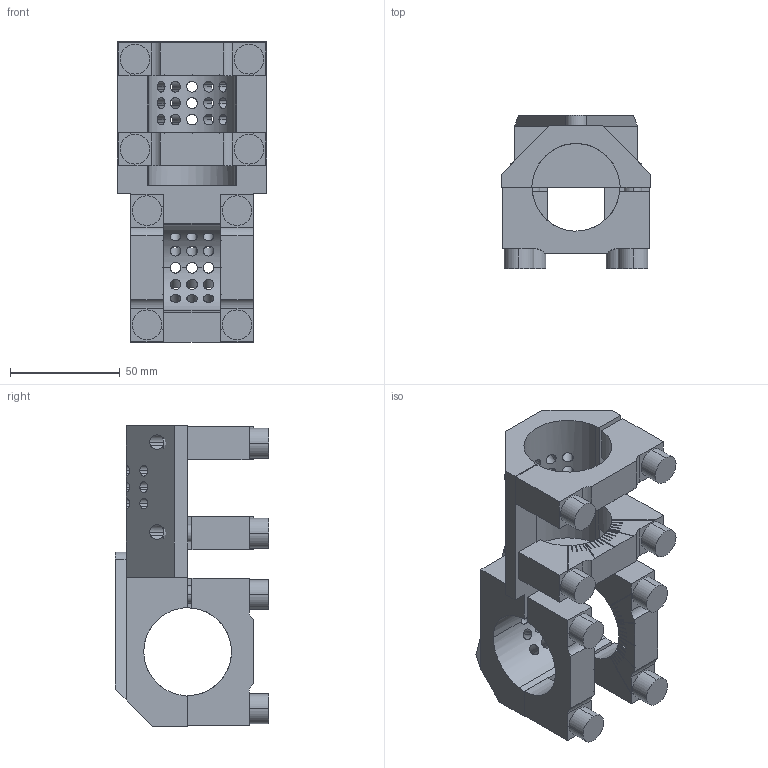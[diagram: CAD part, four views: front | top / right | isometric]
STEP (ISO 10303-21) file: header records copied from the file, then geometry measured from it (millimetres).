
FILE_DESCRIPTION(('STEP AP214'),'1');
FILE_NAME('EGT140_1720243_RD40_40_L90.CATPart.stp','2015-09-14T13:10:04',('3D-Tool'),(' '),'Spatial InterOp 3D',' ',' ');
FILE_SCHEMA(('automotive_design'));
Length unit declared in the file: millimetre
Products named in the file (13): EGT140_1720243_RD40_40_L90|EGT140_RD40_40_L90|Bohrbearbeitung; EGT140_1720243_RD40_40_L90|EGT206_SCHELLE_RD40_2|Assemble.142; EGT140_1720243_RD40_40_L90|EGT206_SCHELLE_RD40_1|Assemble.143; 1; 2; 3; 4; EGT140_1720243_RD40_40_L90|EGT206_SCHELLE_RD40_2|Assemble.145; EGT140_1720243_RD40_40_L90|EGT206_SCHELLE_RD40_1|Assemble.146; 5; 6; 7; 8
Bounding box: 68 x 70 x 137 mm (x, y, z)
Volume: 207722.8 mm3; surface area: 75927 mm2
Topology: 13 solids, 13 shells, 596 faces, 1681 edges, 1116 vertices
Faces by surface type: plane 347, cylinder 249
Entity records: 28077 total; most frequent: CARTESIAN_POINT 7774, ORIENTED_EDGE 3362, DIRECTION 2917, EDGE_CURVE 1681, VERTEX_POINT 1116, AXIS2_PLACEMENT_3D 999, LINE 919, VECTOR 919
